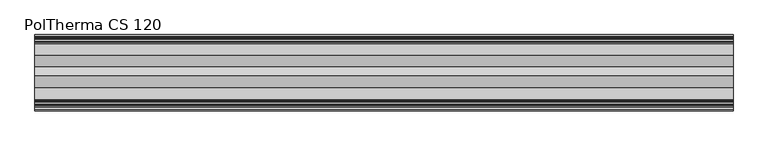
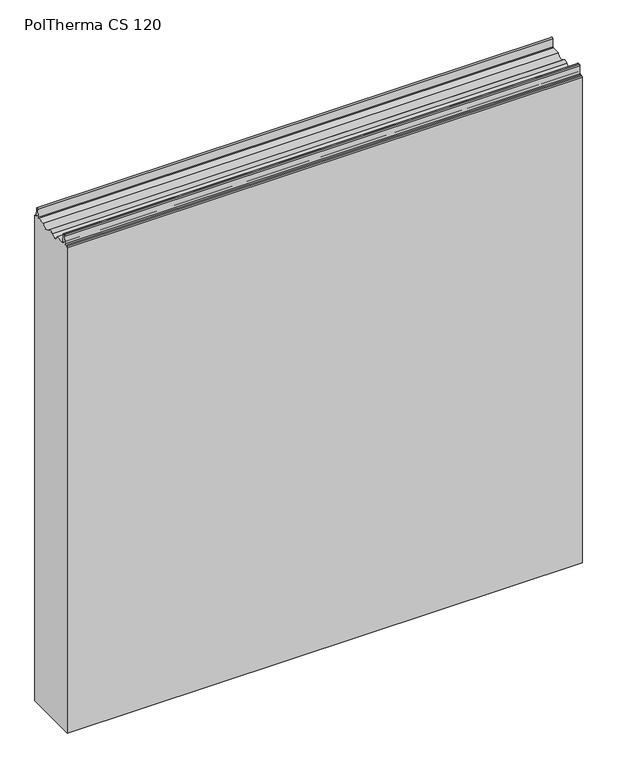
"""IFC4 building model written with IfcOpenShell, lengths in millimetres: plate geometry, Europanels_Poltherma CS_Hz : PolTherma CS 120."""

import ifcopenshell
import ifcopenshell.guid

model = None  # the IFC model being written
_history = None  # IfcOwnerHistory: only IFC2X3 demands one
_inside = {}  # id of a spatial element -> (the spatial element, [elements in it])
_under = {}  # id of a project, library or spatial element -> (it, [spatial elements below it])
_declared = {}  # id of a project -> (the project, [libraries it declares])
_typed = {}  # id of a type object -> (the type object, [elements of that type])
_made_of = {}  # id of a material, layer set ... -> (it, [elements and type objects made of it])


def new_model(schema):
    """Start an empty IFC model of exactly this schema.

    Asked for "IFC4X3", IfcOpenShell would pick the latest addendum, in which some entities
    have other attributes; the version numbers below select the first issue.
    IFC2X3 requires an IfcOwnerHistory on every rooted entity: one is made here for all.
    """
    global model, _history
    if schema == "IFC4X3":
        model = ifcopenshell.file(schema_version=(4, 3, 0, 0))
    else:
        model = ifcopenshell.file(schema=schema)
    _inside.clear()
    _under.clear()
    _declared.clear()
    _typed.clear()
    _made_of.clear()
    _history = None
    if model.schema == "IFC2X3":
        org = make("IfcOrganization", Name="unknown")
        user = make(
            "IfcPersonAndOrganization",
            ThePerson=make("IfcPerson", FamilyName="unknown"),
            TheOrganization=org,
        )
        app = make(
            "IfcApplication",
            ApplicationDeveloper=org,
            Version="unknown",
            ApplicationFullName="unknown",
            ApplicationIdentifier="unknown",
        )
        _history = make(
            "IfcOwnerHistory",
            OwningUser=user,
            OwningApplication=app,
            ChangeAction="ADDED",
            CreationDate=0,
        )
    return model


def make(cls, **values):
    """One entity of the class cls with the attributes given. An attribute that is None is left unset."""
    return model.create_entity(
        cls, **{name: value for name, value in values.items() if value is not None}
    )


def rooted(cls, **values):
    """An entity with a GlobalId (a new one), such as an element, a storey or a relation."""
    return make(cls, GlobalId=ifcopenshell.guid.new(), OwnerHistory=_history, **values)


def si_unit(unit_type, name, prefix=None):
    """IfcSIUnit, for example si_unit("LENGTHUNIT", "METRE", prefix="MILLI")."""
    return make("IfcSIUnit", UnitType=unit_type, Prefix=prefix, Name=name)


def assignment(units):
    """IfcUnitAssignment: the units of a project."""
    return None if units is None else make("IfcUnitAssignment", Units=units)


def point(xyz):
    """IfcCartesianPoint."""
    return None if xyz is None else make("IfcCartesianPoint", Coordinates=xyz)


def direction(xyz):
    """IfcDirection."""
    return None if xyz is None else make("IfcDirection", DirectionRatios=xyz)


def frame(location, z_axis=None, x_axis=None):
    """IfcAxis2Placement3D, a coordinate frame: its origin and axes. An axis left out is left unset."""
    return make(
        "IfcAxis2Placement3D",
        Location=point(location),
        Axis=direction(z_axis),
        RefDirection=direction(x_axis),
    )


def frame_2d(location, x_axis=None):
    """IfcAxis2Placement2D, a coordinate frame in the plane: its origin and x axis."""
    return make(
        "IfcAxis2Placement2D", Location=point(location), RefDirection=direction(x_axis)
    )


def origin():
    """The frame at (0, 0, 0) with its axes left unset."""
    return frame((0.0, 0.0, 0.0))


def place(relative_to, where):
    """IfcLocalPlacement: puts the frame where relative to a parent placement (None: the world)."""
    return make(
        "IfcLocalPlacement", PlacementRelTo=relative_to, RelativePlacement=where
    )


def context(
    kind, dimensions, precision=None, world=None, true_north=None, identifier=None
):
    """IfcGeometricRepresentationContext, for example the 3D "Model" context."""
    return make(
        "IfcGeometricRepresentationContext",
        ContextIdentifier=identifier,
        ContextType=kind,
        CoordinateSpaceDimension=dimensions,
        Precision=precision,
        WorldCoordinateSystem=world,
        TrueNorth=true_north,
    )


def project(units=None, contexts=None):
    """IfcProject with its units and contexts."""
    return rooted(
        "IfcProject",
        Name="project",
        RepresentationContexts=contexts,
        UnitsInContext=assignment(units),
    )


def spatial(cls, under=None, at=None, **own):
    """A site, building, storey or space (cls), placed at a placement, below another one or the project."""
    s = rooted(cls, ObjectPlacement=at, **own)
    if under is not None:
        _under.setdefault(under.id(), (under, []))[1].append(s)
    return s


def polyline(points):
    """IfcPolyline through the points."""
    return make("IfcPolyline", Points=[point(p) for p in points])


def circle_curve(where, radius):
    """IfcCircle in the frame where."""
    return make("IfcCircle", Position=where, Radius=radius)


def trimmed(basis, trim1, trim2, sense, master):
    """IfcTrimmedCurve: the piece of a basis curve between two trims."""
    return make(
        "IfcTrimmedCurve",
        BasisCurve=basis,
        Trim1=trim1,
        Trim2=trim2,
        SenseAgreement=sense,
        MasterRepresentation=master,
    )


def segment(curve, same_sense, transition):
    """IfcCompositeCurveSegment."""
    return make(
        "IfcCompositeCurveSegment",
        Transition=transition,
        SameSense=same_sense,
        ParentCurve=curve,
    )


def composite_curve(segments, self_intersect=None):
    """IfcCompositeCurve: segments joined end to end."""
    return make("IfcCompositeCurve", Segments=segments, SelfIntersect=self_intersect)


def outline(outer, holes=None, kind="AREA"):
    """IfcArbitraryClosedProfileDef: a profile drawn as a closed curve; with holes, ...WithVoids."""
    if holes is None:
        return make("IfcArbitraryClosedProfileDef", ProfileType=kind, OuterCurve=outer)
    return make(
        "IfcArbitraryProfileDefWithVoids",
        ProfileType=kind,
        OuterCurve=outer,
        InnerCurves=holes,
    )


def extrude(swept, where, along, depth):
    """IfcExtrudedAreaSolid: the profile swept, set in the frame where, extruded along a direction by depth."""
    return make(
        "IfcExtrudedAreaSolid",
        SweptArea=swept,
        Position=where,
        ExtrudedDirection=direction(along),
        Depth=depth,
    )


def shape(context_of_items, identifier, shape_type, items):
    """IfcShapeRepresentation: the items that make up one representation, for example the "Body"."""
    return make(
        "IfcShapeRepresentation",
        ContextOfItems=context_of_items,
        RepresentationIdentifier=identifier,
        RepresentationType=shape_type,
        Items=items,
    )


def source(mapping_origin, context_of_items, identifier, shape_type, items):
    """IfcRepresentationMap: a shape defined once, which mapped items show again and again."""
    return make(
        "IfcRepresentationMap",
        MappingOrigin=mapping_origin,
        MappedRepresentation=shape(context_of_items, identifier, shape_type, items),
    )


def transform(
    local_origin,
    x_axis=None,
    y_axis=None,
    z_axis=None,
    scale=None,
    scale2=None,
    scale3=None,
    uniform=True,
):
    """IfcCartesianTransformationOperator3D, or its non-uniform kind. x_axis, y_axis, z_axis: its Axis1, 2, 3."""
    if uniform:
        return make(
            "IfcCartesianTransformationOperator3D",
            Axis1=direction(x_axis),
            Axis2=direction(y_axis),
            LocalOrigin=point(local_origin),
            Scale=scale,
            Axis3=direction(z_axis),
        )
    return make(
        "IfcCartesianTransformationOperator3DnonUniform",
        Axis1=direction(x_axis),
        Axis2=direction(y_axis),
        LocalOrigin=point(local_origin),
        Scale=scale,
        Axis3=direction(z_axis),
        Scale2=scale2,
        Scale3=scale3,
    )


def mapped(mapping_source, mapping_target):
    """IfcMappedItem: shows the shape of a source again, moved by a transform."""
    return make(
        "IfcMappedItem", MappingSource=mapping_source, MappingTarget=mapping_target
    )


def made_of(thing, what):
    """Note that an element or type object is made of a material, layer set ...; save() writes the relation."""
    if what is not None:
        _made_of.setdefault(what.id(), (what, []))[1].append(thing)
    return thing


def element(
    cls,
    number,
    at=None,
    inside=None,
    cuts=None,
    type_object=None,
    material=None,
    context=None,
    identifier="Body",
    shape_type=None,
    held_by="IfcProductDefinitionShape",
    body=None,
    shapes=None,
    **own,
):
    """One element of the class cls, such as IfcWall. Its Tag is "e" and its number.

    at: its placement. inside: the storey or other place that contains it. cuts: it is an
    opening in that element (IfcRelVoidsElement). A single representation is given by context,
    identifier, shape_type and body (its items); several are given by shapes. held_by: the class
    of the entity that holds the representations. save() writes the other relations.
    """
    e = rooted(cls, Tag="e%d" % number, ObjectPlacement=at, **own)
    if body is not None:
        shapes = [shape(context, identifier, shape_type, body)]
    if shapes is not None:
        e.Representation = make(held_by, Representations=shapes)
    if inside is not None:
        _inside.setdefault(inside.id(), (inside, []))[1].append(e)
    if cuts is not None:
        rooted(
            "IfcRelVoidsElement", RelatingBuildingElement=cuts, RelatedOpeningElement=e
        )
    if type_object is not None:
        _typed.setdefault(type_object.id(), (type_object, []))[1].append(e)
    return made_of(e, material)


def aggregate(whole, parts):
    """IfcRelAggregates: a whole, such as a stair, and the parts it consists of."""
    return rooted("IfcRelAggregates", RelatingObject=whole, RelatedObjects=parts)


def save(model, path):
    """Write the relations noted so far, then the file.

    IfcRelAggregates (storeys below a building ...), IfcRelContainedInSpatialStructure (elements
    in a storey), IfcRelDefinesByType, IfcRelAssociatesMaterial and IfcRelDeclares: one each for
    every whole, place, type object, material and project.
    """
    for whole, parts in _under.values():
        aggregate(whole, parts)
    for where, things in _inside.values():
        rooted(
            "IfcRelContainedInSpatialStructure",
            RelatedElements=things,
            RelatingStructure=where,
        )
    for kind, things in _typed.values():
        rooted("IfcRelDefinesByType", RelatedObjects=things, RelatingType=kind)
    for what, things in _made_of.values():
        rooted("IfcRelAssociatesMaterial", RelatedObjects=things, RelatingMaterial=what)
    for by, libraries in _declared.values():
        rooted("IfcRelDeclares", RelatingContext=by, RelatedDefinitions=libraries)
    model.write(path)


def poltherma_cs_120_64653d21(model_context):
    return source(origin(), model_context, "Body", "SweptSolid", [
        extrude(outline(composite_curve([segment(polyline([(-60.0, 0.0), (-60.0, 1096.5011047)]), True, "CONTINUOUS"), segment(trimmed(circle_curve(frame_2d((-58.0, 1096.5011047)), 2.0), [point((-60.0, 1096.5011047))], [point((-58.0, 1098.5011047))], False, "CARTESIAN"), True, "CONTINUOUS"), segment(polyline([(-58.0, 1098.5011047), (-54.244573, 1098.5011047)]), True, "CONTINUOUS"), segment(trimmed(circle_curve(frame_2d((-54.244573, 1100.5011047)), 2.0), [point((-54.244573, 1098.5011047))], [point((-52.2483736, 1100.3778643))], True, "CARTESIAN"), True, "CONTINUOUS"), segment(polyline([(-52.2483736, 1100.3778643), (-51.1836192, 1117.624345)]), True, "CONTINUOUS"), segment(trimmed(circle_curve(frame_2d((-49.1874198, 1117.5011047)), 2.0), [point((-51.1836192, 1117.624345))], [point((-49.1874198, 1119.5011047))], False, "CARTESIAN"), True, "CONTINUOUS"), segment(polyline([(-49.1874198, 1119.5011047), (-46.4480373, 1119.5011047)]), True, "CONTINUOUS"), segment(trimmed(circle_curve(frame_2d((-46.4480373, 1117.5011047)), 2.0), [point((-46.4480373, 1119.5011047))], [point((-44.4498501, 1117.5862394))], False, "CARTESIAN"), True, "CONTINUOUS"), segment(polyline([(-44.4498501, 1117.5862394), (-43.7101357, 1100.2244834)]), True, "CONTINUOUS"), segment(trimmed(circle_curve(frame_2d((-41.9117672, 1100.3011047)), 1.8), [point((-43.7101357, 1100.2244834))], [point((-41.9117672, 1098.5011047))], True, "CARTESIAN"), True, "CONTINUOUS"), segment(polyline([(-41.9117672, 1098.5011047), (-22.9234285, 1098.5011047)]), True, "CONTINUOUS"), segment(trimmed(circle_curve(frame_2d((-12.3, 1101.354658)), 11.0), [point((-22.9234285, 1098.5011047))], [point((-4.05, 1094.0788419))], True, "CARTESIAN"), True, "CONTINUOUS"), segment(trimmed(circle_curve(frame_2d((2.7, 1088.1259015)), 9.0), [point((-4.05, 1094.0788419))], [point((9.45, 1094.0788419))], False, "CARTESIAN"), True, "CONTINUOUS"), segment(trimmed(circle_curve(frame_2d((17.7, 1101.354658)), 11.0), [point((9.45, 1094.0788419))], [point((28.3234285, 1098.5011047))], True, "CARTESIAN"), True, "CONTINUOUS"), segment(polyline([(28.3234285, 1098.5011047), (46.113894, 1098.5011047)]), True, "CONTINUOUS"), segment(trimmed(circle_curve(frame_2d((46.113894, 1100.5011047)), 2.0), [point((46.113894, 1098.5011047))], [point((48.1120505, 1100.4152514))], True, "CARTESIAN"), True, "CONTINUOUS"), segment(polyline([(48.1120505, 1100.4152514), (48.8434291, 1117.437418)]), True, "CONTINUOUS"), segment(trimmed(circle_curve(frame_2d((51.0191836, 1117.343934)), 2.1777619), [point((48.8434291, 1117.437418))], [point((53.1927202, 1117.4795275))], False, "CARTESIAN"), True, "CONTINUOUS"), segment(polyline([(53.1927202, 1117.4795275), (54.2596673, 1100.3765791)]), True, "CONTINUOUS"), segment(trimmed(circle_curve(frame_2d((56.2557869, 1100.5011047)), 2.0), [point((54.2596673, 1100.3765791))], [point((56.2557869, 1098.5011047))], True, "CARTESIAN"), True, "CONTINUOUS"), segment(polyline([(56.2557869, 1098.5011047), (58.0, 1098.5011047)]), True, "CONTINUOUS"), segment(trimmed(circle_curve(frame_2d((58.0, 1096.5011047)), 2.0), [point((58.0, 1098.5011047))], [point((60.0, 1096.5011047))], False, "CARTESIAN"), True, "CONTINUOUS"), segment(polyline([(60.0, 1096.5011047), (60.0, 0.0), (-60.0, 0.0)]), True, "CONTINUOUS")], self_intersect=False)), frame((-550.0, 0.0, 0.0), z_axis=(1.0, 0.0, 0.0), x_axis=(0.0, 1.0, 0.0)), (0.0, 0.0, 1.0), 1100.0),
    ])


if __name__ == "__main__":
    model = new_model("IFC4")
    model_context = context("Model", 3, world=origin())
    ifc_project = project(units=[si_unit("LENGTHUNIT", "METRE", prefix="MILLI")], contexts=[model_context])
    site = spatial("IfcSite", under=ifc_project)
    building = spatial("IfcBuilding", under=site)
    placement = place(None, origin())
    poltherma_cs_120_shape = poltherma_cs_120_64653d21(model_context)
    element("IfcPlate", 1, ObjectType="Europanels_Poltherma CS_Hz : PolTherma CS 120", at=placement, inside=building, context=model_context, shape_type="MappedRepresentation", body=[
        mapped(poltherma_cs_120_shape, transform((0.0, 0.0, 0.0), x_axis=(1.0, 0.0, 0.0), y_axis=(0.0, 1.0, 0.0), z_axis=(0.0, 0.0, 1.0))),
    ])
    save(model, "model.ifc")
